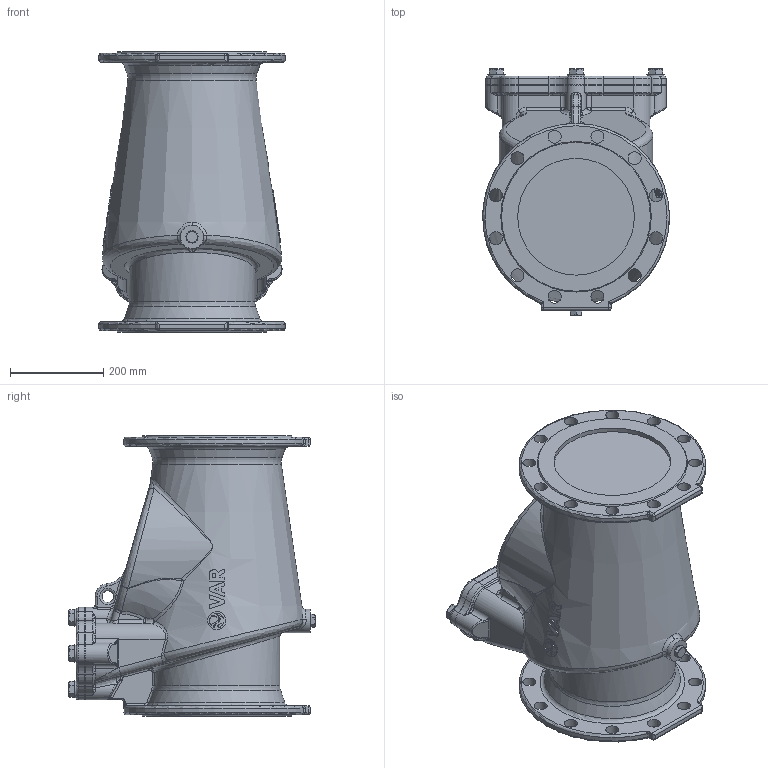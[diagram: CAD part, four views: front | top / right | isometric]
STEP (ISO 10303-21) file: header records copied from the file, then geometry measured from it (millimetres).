
FILE_DESCRIPTION(('STEP AP242'), '1');
FILE_NAME('VAR RETO-STOP 吾疣蝽 觌囡囗 DN 250 PN 16', '2026-06-28T08:25:24', (' '), (' '), 'C3D Converter', 'C3D Toolkit', '');
FILE_SCHEMA(('AP242_MANAGED_MODEL_BASED_3D_ENGINEERING_MIM_LF { 1 0 10303 442 1 1 4 }'));
Length unit declared in the file: millimetre
Products named in the file (1): Admi1EE092BCh8lq
Bounding box: 399.93 x 527.5 x 600 mm (x, y, z)
Volume: 58061527.7 mm3; surface area: 1256699.5 mm2
Topology: 1 solids, 6 shells, 834 faces, 2062 edges, 1242 vertices
Faces by surface type: plane 219, bspline 167, cylinder 161, extrusion 150, torus 66, cone 65, sphere 6
Full cylindrical faces by diameter (mm): 15.053 x1, 16 x1, 19.053 x4, 20 x1, 21 x4, 22 x1, 25 x1, 26 x1, 27 x4, 28 x24, 37 x4, 39.025 x1, 50 x1, 250 x2
Entity records: 64541 total; most frequent: CARTESIAN_POINT 40970, ORIENTED_EDGE 3918, DIRECTION 2759, EDGE_CURVE 1959, VERTEX_POINT 1239, B_SPLINE_CURVE_WITH_KNOTS 1043, AXIS2_PLACEMENT_3D 1033, EDGE_LOOP 996
